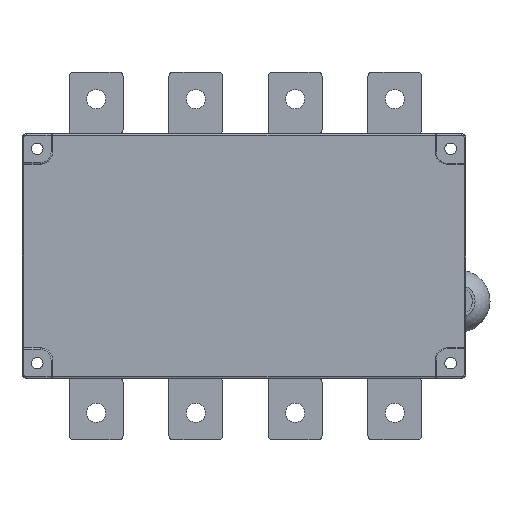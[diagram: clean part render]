
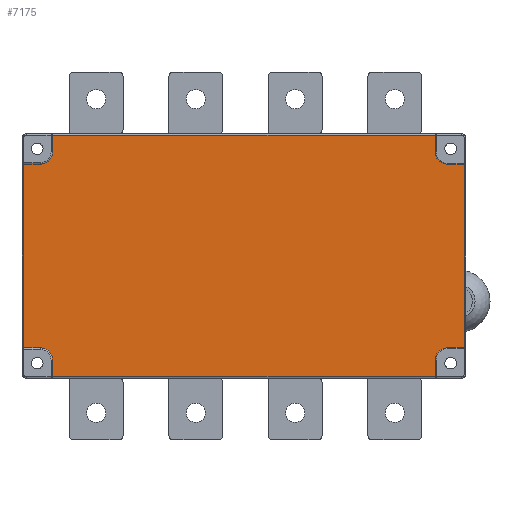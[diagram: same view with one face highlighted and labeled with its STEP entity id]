
A CAD part, front view. The second image highlights one B-rep face of the part: STEP entity #7175.
In plain terms, the highlighted planar face has unit normal (0, -1, 0).
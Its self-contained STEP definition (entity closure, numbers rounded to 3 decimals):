
#3747=DIRECTION('',(-1.,0.,0.));
#3748=VECTOR('',#3747,11.);
#3749=CARTESIAN_POINT('',(-163.,2.,60.));
#3750=LINE('',#3749,#3748);
#3772=DIRECTION('',(0.,0.,-1.));
#3773=VECTOR('',#3772,120.);
#3774=CARTESIAN_POINT('',(-174.,2.,60.));
#3775=LINE('',#3774,#3773);
#3776=CARTESIAN_POINT('',(-163.,2.,68.));
#3777=DIRECTION('',(0.,-1.,0.));
#3778=DIRECTION('',(0.,0.,-1.));
#3779=AXIS2_PLACEMENT_3D('',#3776,#3777,#3778);
#3781=DIRECTION('',(0.,0.,1.));
#3782=VECTOR('',#3781,11.);
#3783=CARTESIAN_POINT('',(-155.,2.,68.));
#3784=LINE('',#3783,#3782);
#3785=DIRECTION('',(0.,0.,-1.));
#3786=VECTOR('',#3785,11.);
#3787=CARTESIAN_POINT('',(95.,2.,79.));
#3788=LINE('',#3787,#3786);
#3789=CARTESIAN_POINT('',(103.,2.,68.));
#3790=DIRECTION('',(0.,-1.,0.));
#3791=DIRECTION('',(-1.,0.,0.));
#3792=AXIS2_PLACEMENT_3D('',#3789,#3790,#3791);
#3794=DIRECTION('',(1.,0.,0.));
#3795=VECTOR('',#3794,11.);
#3796=CARTESIAN_POINT('',(103.,2.,60.));
#3797=LINE('',#3796,#3795);
#3798=DIRECTION('',(-1.,0.,0.));
#3799=VECTOR('',#3798,11.);
#3800=CARTESIAN_POINT('',(114.,2.,-60.));
#3801=LINE('',#3800,#3799);
#3802=CARTESIAN_POINT('',(103.,2.,-68.));
#3803=DIRECTION('',(0.,-1.,0.));
#3804=DIRECTION('',(0.,0.,1.));
#3805=AXIS2_PLACEMENT_3D('',#3802,#3803,#3804);
#3807=DIRECTION('',(0.,0.,-1.));
#3808=VECTOR('',#3807,11.);
#3809=CARTESIAN_POINT('',(95.,2.,-68.));
#3810=LINE('',#3809,#3808);
#3811=CARTESIAN_POINT('',(-163.,2.,-68.));
#3812=DIRECTION('',(0.,-1.,0.));
#3813=DIRECTION('',(1.,0.,0.));
#3814=AXIS2_PLACEMENT_3D('',#3811,#3812,#3813);
#3816=DIRECTION('',(-1.,0.,0.));
#3817=VECTOR('',#3816,11.);
#3818=CARTESIAN_POINT('',(-163.,2.,-60.));
#3819=LINE('',#3818,#3817);
#3820=DIRECTION('',(-1.,0.,0.));
#3821=VECTOR('',#3820,250.);
#3822=CARTESIAN_POINT('',(95.,2.,79.));
#3823=LINE('',#3822,#3821);
#4261=DIRECTION('',(1.,0.,0.));
#4262=VECTOR('',#4261,250.);
#4263=CARTESIAN_POINT('',(-155.,2.,-79.));
#4264=LINE('',#4263,#4262);
#4388=DIRECTION('',(0.,0.,-1.));
#4389=VECTOR('',#4388,11.);
#4390=CARTESIAN_POINT('',(-155.,2.,-68.));
#4391=LINE('',#4390,#4389);
#4470=DIRECTION('',(0.,0.,1.));
#4471=VECTOR('',#4470,120.);
#4472=CARTESIAN_POINT('',(114.,2.,-60.));
#4473=LINE('',#4472,#4471);
#5539=CARTESIAN_POINT('',(-155.,2.,79.));
#5540=VERTEX_POINT('',#5539);
#5542=CARTESIAN_POINT('',(-155.,2.,68.));
#5544=VERTEX_POINT('',#5542);
#5545=CARTESIAN_POINT('',(-163.,2.,60.));
#5547=VERTEX_POINT('',#5545);
#5550=CARTESIAN_POINT('',(-174.,2.,60.));
#5552=VERTEX_POINT('',#5550);
#5553=CARTESIAN_POINT('',(-174.,2.,-60.));
#5554=VERTEX_POINT('',#5553);
#5555=CARTESIAN_POINT('',(95.,2.,79.));
#5556=VERTEX_POINT('',#5555);
#5557=CARTESIAN_POINT('',(95.,2.,68.));
#5558=VERTEX_POINT('',#5557);
#5559=CARTESIAN_POINT('',(103.,2.,60.));
#5560=VERTEX_POINT('',#5559);
#5561=CARTESIAN_POINT('',(114.,2.,60.));
#5562=VERTEX_POINT('',#5561);
#5563=CARTESIAN_POINT('',(114.,2.,-60.));
#5564=VERTEX_POINT('',#5563);
#5565=CARTESIAN_POINT('',(103.,2.,-60.));
#5566=VERTEX_POINT('',#5565);
#5567=CARTESIAN_POINT('',(95.,2.,-68.));
#5568=VERTEX_POINT('',#5567);
#5569=CARTESIAN_POINT('',(95.,2.,-79.));
#5570=VERTEX_POINT('',#5569);
#5571=CARTESIAN_POINT('',(-155.,2.,-79.));
#5572=VERTEX_POINT('',#5571);
#5573=CARTESIAN_POINT('',(-155.,2.,-68.));
#5574=VERTEX_POINT('',#5573);
#5575=CARTESIAN_POINT('',(-163.,2.,-60.));
#5576=VERTEX_POINT('',#5575);
#7140=CARTESIAN_POINT('',(0.,2.,0.));
#7141=DIRECTION('',(0.,-1.,0.));
#7142=DIRECTION('',(-1.,0.,0.));
#7143=AXIS2_PLACEMENT_3D('',#7140,#7141,#7142);
#7144=PLANE('',#7143);
#7145=ORIENTED_EDGE('',*,*,#7107,.F.);
#7146=ORIENTED_EDGE('',*,*,#7092,.T.);
#7147=ORIENTED_EDGE('',*,*,#7077,.T.);
#7149=ORIENTED_EDGE('',*,*,#7148,.F.);
#7151=ORIENTED_EDGE('',*,*,#7150,.T.);
#7153=ORIENTED_EDGE('',*,*,#7152,.T.);
#7155=ORIENTED_EDGE('',*,*,#7154,.T.);
#7157=ORIENTED_EDGE('',*,*,#7156,.F.);
#7159=ORIENTED_EDGE('',*,*,#7158,.T.);
#7161=ORIENTED_EDGE('',*,*,#7160,.T.);
#7163=ORIENTED_EDGE('',*,*,#7162,.T.);
#7165=ORIENTED_EDGE('',*,*,#7164,.F.);
#7167=ORIENTED_EDGE('',*,*,#7166,.F.);
#7169=ORIENTED_EDGE('',*,*,#7168,.T.);
#7171=ORIENTED_EDGE('',*,*,#7170,.T.);
#7172=ORIENTED_EDGE('',*,*,#7133,.F.);
#7173=EDGE_LOOP('',(#7145,#7146,#7147,#7149,#7151,#7153,#7155,#7157,#7159,#7161,
#7163,#7165,#7167,#7169,#7171,#7172));
#7174=FACE_OUTER_BOUND('',#7173,.F.);
#3780=CIRCLE('',#3779,8.);
#3793=CIRCLE('',#3792,8.);
#3806=CIRCLE('',#3805,8.);
#3815=CIRCLE('',#3814,8.);
#7077=EDGE_CURVE('',#5544,#5540,#3784,.T.);
#7092=EDGE_CURVE('',#5547,#5544,#3780,.T.);
#7107=EDGE_CURVE('',#5547,#5552,#3750,.T.);
#7133=EDGE_CURVE('',#5552,#5554,#3775,.T.);
#7148=EDGE_CURVE('',#5556,#5540,#3823,.T.);
#7150=EDGE_CURVE('',#5556,#5558,#3788,.T.);
#7152=EDGE_CURVE('',#5558,#5560,#3793,.T.);
#7154=EDGE_CURVE('',#5560,#5562,#3797,.T.);
#7156=EDGE_CURVE('',#5564,#5562,#4473,.T.);
#7158=EDGE_CURVE('',#5564,#5566,#3801,.T.);
#7160=EDGE_CURVE('',#5566,#5568,#3806,.T.);
#7162=EDGE_CURVE('',#5568,#5570,#3810,.T.);
#7164=EDGE_CURVE('',#5572,#5570,#4264,.T.);
#7166=EDGE_CURVE('',#5574,#5572,#4391,.T.);
#7168=EDGE_CURVE('',#5574,#5576,#3815,.T.);
#7170=EDGE_CURVE('',#5576,#5554,#3819,.T.);
#7175=ADVANCED_FACE('',(#7174),#7144,.T.);
